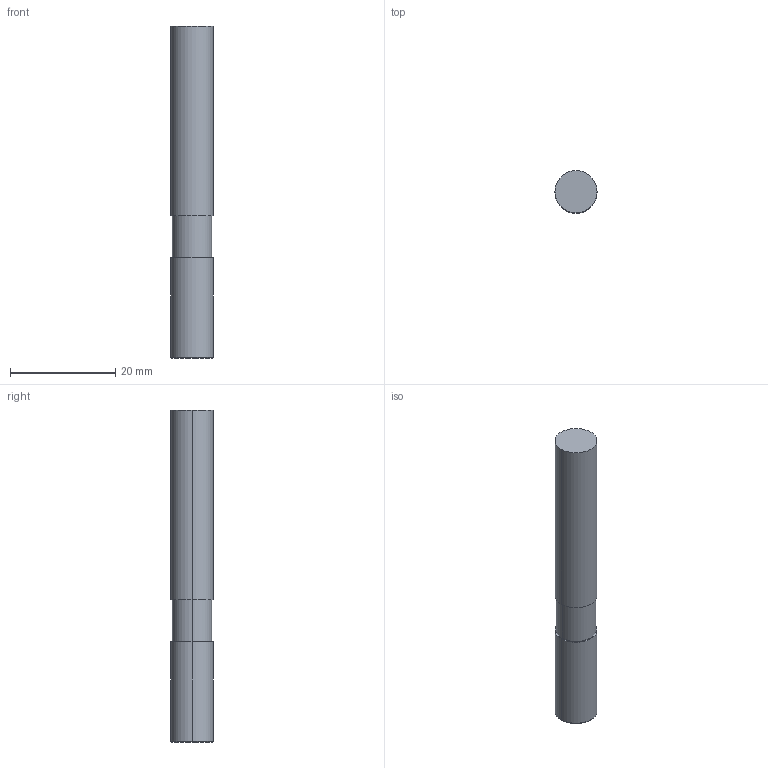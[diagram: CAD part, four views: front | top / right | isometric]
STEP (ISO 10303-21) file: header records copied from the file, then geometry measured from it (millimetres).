
FILE_DESCRIPTION(('STEP AP214'),'1');
FILE_NAME('cctmp_273227B1-9CFC-4B0C-8105-18FCE615430C_2020_09_30_15_52_26_0954..stp','2020-09-30T13:52:26',('Meusburger Georg GmbH & Co KG'),('CADClick - www.CADClick.com'),'Spatial InterOp 3D',' ','unknown authorization');
FILE_SCHEMA(('AUTOMOTIVE_DESIGN { 1 0 10303 214 1 1 1 1 }'));
Length unit declared in the file: millimetre
Products named in the file (1): WZF 125487_8
Bounding box: 8 x 8 x 63 mm (x, y, z)
Volume: 3117.8 mm3; surface area: 1681.3 mm2
Topology: 1 solids, 1 shells, 12 faces, 22 edges, 14 vertices
Faces by surface type: cylinder 6, plane 4, cone 2
Entity records: 424 total; most frequent: DIRECTION 62, CARTESIAN_POINT 49, ORIENTED_EDGE 44, AXIS2_PLACEMENT_3D 27, EDGE_CURVE 22, EDGE_LOOP 14, VERTEX_POINT 14, CIRCLE 14
